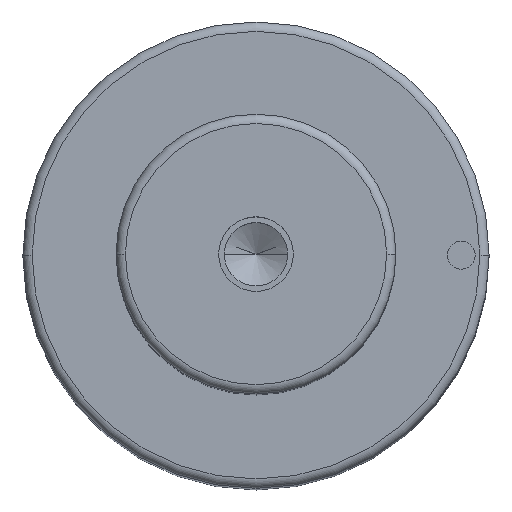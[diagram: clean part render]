
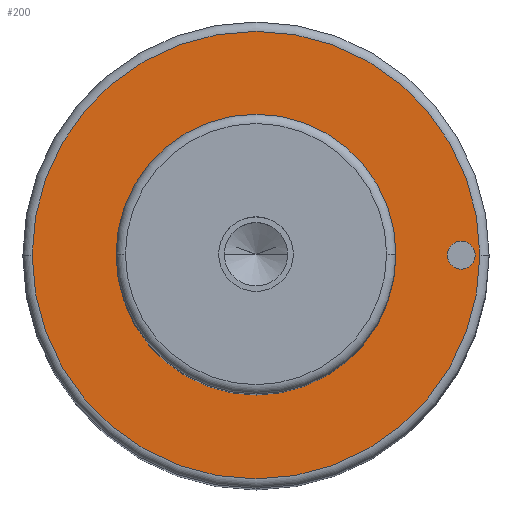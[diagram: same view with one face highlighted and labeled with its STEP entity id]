
A CAD part, top view. The second image highlights one B-rep face of the part: STEP entity #200.
In plain terms, the highlighted planar face has unit normal (0, 0, 1).
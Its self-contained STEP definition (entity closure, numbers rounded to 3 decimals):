
#99=PLANE('',#596);
#107=FACE_BOUND('',#265,.T.);
#108=FACE_BOUND('',#266,.T.);
#109=FACE_BOUND('',#267,.T.);
#200=ADVANCED_FACE('',(#107,#108,#109),#99,.T.);
#265=EDGE_LOOP('',(#359,#360));
#266=EDGE_LOOP('',(#361,#362));
#267=EDGE_LOOP('',(#363,#364));
#359=ORIENTED_EDGE('',*,*,#460,.F.);
#360=ORIENTED_EDGE('',*,*,#461,.F.);
#361=ORIENTED_EDGE('',*,*,#485,.F.);
#362=ORIENTED_EDGE('',*,*,#486,.F.);
#363=ORIENTED_EDGE('',*,*,#456,.T.);
#364=ORIENTED_EDGE('',*,*,#454,.T.);
#411=VERTEX_POINT('',#808);
#412=VERTEX_POINT('',#810);
#413=VERTEX_POINT('',#816);
#416=VERTEX_POINT('',#821);
#430=VERTEX_POINT('',#875);
#431=VERTEX_POINT('',#876);
#454=EDGE_CURVE('',#412,#411,#513,.T.);
#456=EDGE_CURVE('',#411,#412,#514,.T.);
#460=EDGE_CURVE('',#416,#413,#518,.T.);
#461=EDGE_CURVE('',#413,#416,#519,.T.);
#485=EDGE_CURVE('',#430,#431,#533,.T.);
#486=EDGE_CURVE('',#431,#430,#534,.T.);
#513=CIRCLE('',#558,15.);
#514=CIRCLE('',#560,15.);
#518=CIRCLE('',#565,24.);
#519=CIRCLE('',#567,24.);
#533=CIRCLE('',#594,1.5);
#534=CIRCLE('',#595,1.5);
#558=AXIS2_PLACEMENT_3D('',#809,#647,#648);
#560=AXIS2_PLACEMENT_3D('',#813,#652,#653);
#565=AXIS2_PLACEMENT_3D('',#822,#662,#663);
#567=AXIS2_PLACEMENT_3D('',#824,#666,#667);
#594=AXIS2_PLACEMENT_3D('',#874,#730,#731);
#595=AXIS2_PLACEMENT_3D('',#877,#732,#733);
#596=AXIS2_PLACEMENT_3D('',#878,#734,#735);
#647=DIRECTION('',(0.,0.,-1.));
#648=DIRECTION('',(0.,1.,0.));
#652=DIRECTION('',(0.,0.,-1.));
#653=DIRECTION('',(0.,-1.,0.));
#662=DIRECTION('',(0.,0.,-1.));
#663=DIRECTION('',(0.,1.,0.));
#666=DIRECTION('',(0.,0.,-1.));
#667=DIRECTION('',(0.,-1.,0.));
#730=DIRECTION('',(0.,0.,1.));
#731=DIRECTION('',(0.,1.,0.));
#732=DIRECTION('',(0.,0.,1.));
#733=DIRECTION('',(0.,-1.,0.));
#734=DIRECTION('',(0.,0.,1.));
#735=DIRECTION('',(0.,-1.,0.));
#808=CARTESIAN_POINT('',(-15.,0.,106.));
#809=CARTESIAN_POINT('',(0.,0.,106.));
#810=CARTESIAN_POINT('',(15.,0.,106.));
#813=CARTESIAN_POINT('',(0.,0.,106.));
#816=CARTESIAN_POINT('',(-24.,0.,106.));
#821=CARTESIAN_POINT('',(24.,0.,106.));
#822=CARTESIAN_POINT('',(0.,0.,106.));
#824=CARTESIAN_POINT('',(0.,0.,106.));
#874=CARTESIAN_POINT('',(22.,0.,106.));
#875=CARTESIAN_POINT('',(20.5,0.,106.));
#876=CARTESIAN_POINT('',(23.5,0.,106.));
#877=CARTESIAN_POINT('',(22.,0.,106.));
#878=CARTESIAN_POINT('',(0.,0.,106.));
